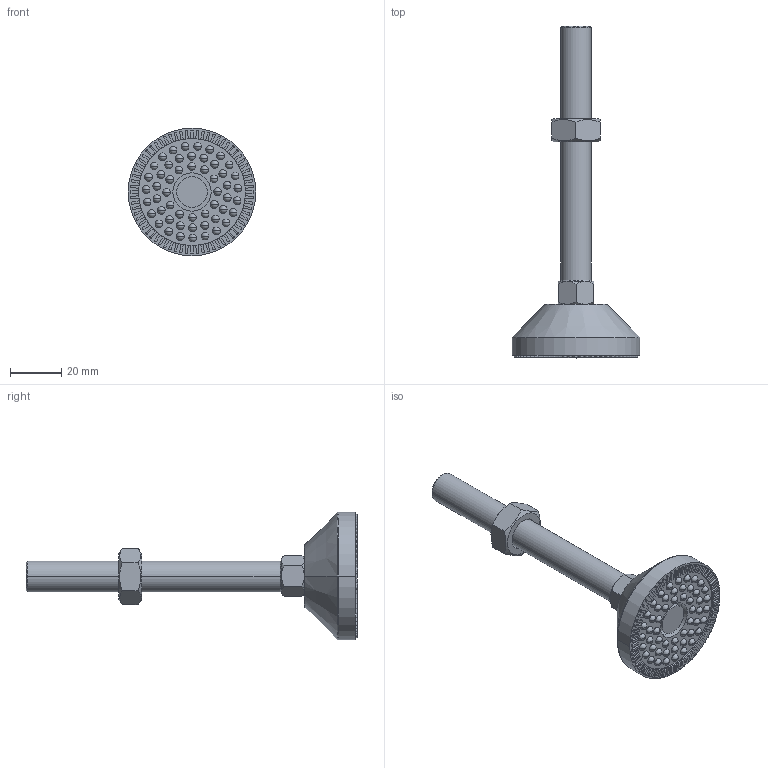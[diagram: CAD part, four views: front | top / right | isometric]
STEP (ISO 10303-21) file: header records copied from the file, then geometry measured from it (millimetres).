
FILE_DESCRIPTION (( 'STEP AP203' ), '1' );
FILE_NAME ('7091.STEP', '2016-07-14T12:19:37', ( 'RosInstal-MKM' ), ( '' ), 'SwSTEP 2.0', 'SolidWorks 2014', '' );
FILE_SCHEMA (( 'CONFIG_CONTROL_DESIGN' ));
Length unit declared in the file: millimetre
Products named in the file (5): Ïîäîøâà ïîâîðîòíàÿ 50ìì; Ïðîêëàäêà îò ñêîëüæåíèÿ ïîä 50ìì; Øïèëüêà Ì12 100ìì; Ãàéêà áåç äûðêè Ì12; 7091
Assembly tree (4 placements, depth 2):
  7091
    Ïîäîøâà ïîâîðîòíàÿ 50ìì
    Ïðîêëàäêà îò ñêîëüæåíèÿ ïîä 50ìì
    Øïèëüêà Ì12 100ìì
    Ãàéêà áåç äûðêè Ì12
Bounding box: 50 x 130 x 50 mm (x, y, z)
Volume: 41522.2 mm3; surface area: 17247.6 mm2
Topology: 4 solids, 4 shells, 691 faces, 2044 edges, 1313 vertices
Faces by surface type: plane 365, cylinder 188, sphere 106, cone 28, torus 4
Entity records: 22329 total; most frequent: CARTESIAN_POINT 4023, DIRECTION 3876, ORIENTED_EDGE 3664, EDGE_CURVE 1832, AXIS2_PLACEMENT_3D 1388, VERTEX_POINT 1207, VECTOR 1100, LINE 1100
